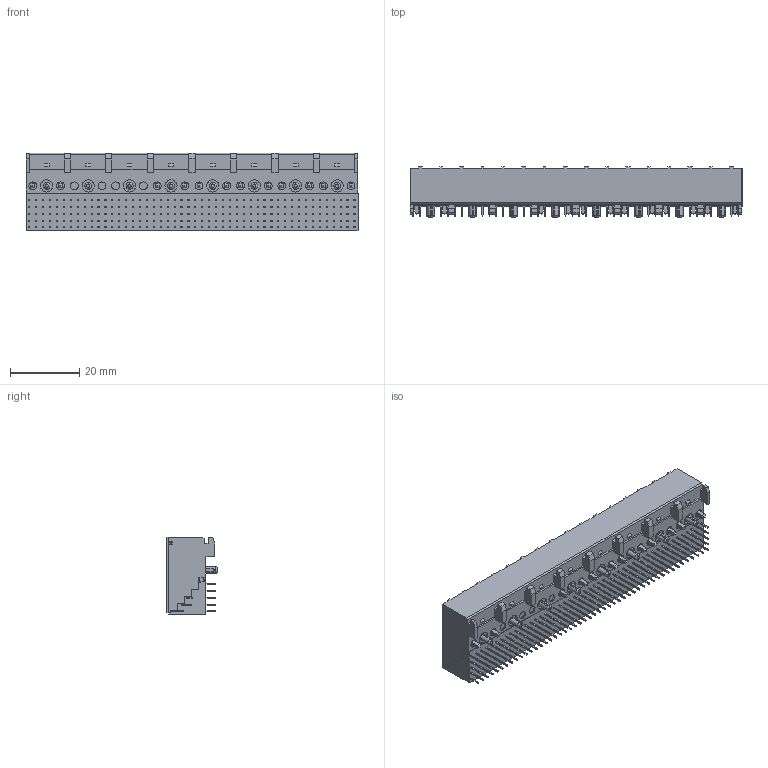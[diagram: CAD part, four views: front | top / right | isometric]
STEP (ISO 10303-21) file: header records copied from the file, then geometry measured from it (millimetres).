
FILE_DESCRIPTION (( 'STEP AP214' ), '1' );
FILE_NAME ('9111-522401C10DU.STEP', '2016-12-28T08:48:10', ( 'RD05' ), ( '' ), 'SwSTEP 2.0', 'SolidWorks 2011', '' );
FILE_SCHEMA (( 'AUTOMOTIVE_DESIGN' ));
Length unit declared in the file: millimetre
Products named in the file (8): 9111-4255BC-1; 5260-P Y3-1; 9111-4254BC-1; 9111-4253BC-1; 9111-4252BC-1; 9111-4251BC-1; 9111-5260Y-1; 9111-522401C10DU
Assembly tree (242 placements, depth 2):
  9111-522401C10DU
    9111-4255BC-1  x48
    9111-4254BC-1  x48
    9111-4253BC-1  x48
    9111-4252BC-1  x48
    9111-4251BC-1  x48
    5260-P Y3-1
    9111-5260Y-1
Bounding box: 96 x 14.55 x 22.5 mm (x, y, z)
Volume: 21686.2 mm3; surface area: 18611.6 mm2
Topology: 870 solids, 870 shells, 9266 faces, 22758 edges, 15280 vertices
Faces by surface type: plane 7016, cylinder 2234, torus 16
Entity records: 56333 total; most frequent: CARTESIAN_POINT 9915, ORIENTED_EDGE 9044, DIRECTION 8510, EDGE_CURVE 4522, VECTOR 4028, LINE 4028, VERTEX_POINT 2966, AXIS2_PLACEMENT_3D 2241
